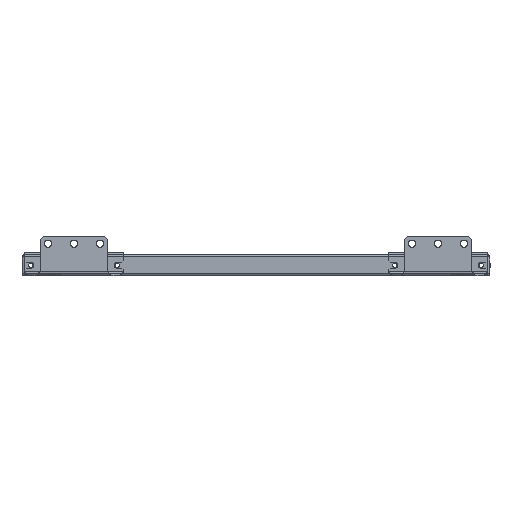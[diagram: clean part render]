
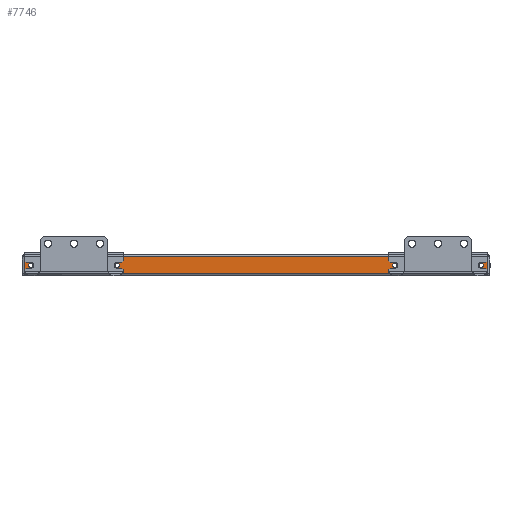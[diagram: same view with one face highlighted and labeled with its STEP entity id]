
A CAD part, left-side view. The second image highlights one B-rep face of the part: STEP entity #7746.
In plain terms, the highlighted planar face has unit normal (-1, 0, 0).
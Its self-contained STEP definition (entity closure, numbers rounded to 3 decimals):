
#45 = EDGE_LOOP ( 'NONE', ( #9570, #9566, #9567, #9565 ) ) ;
#47 = EDGE_LOOP ( 'NONE', ( #9571, #9569 ) ) ;
#48 = EDGE_LOOP ( 'NONE', ( #9574, #9572 ) ) ;
#57 = EDGE_LOOP ( 'NONE', ( #9573, #9568 ) ) ;
#58 = EDGE_LOOP ( 'NONE', ( #9562, #9563 ) ) ;
#404 = VERTEX_POINT ( 'NONE', #1826 ) ;
#405 = VERTEX_POINT ( 'NONE', #1827 ) ;
#412 = VERTEX_POINT ( 'NONE', #1834 ) ;
#413 = VERTEX_POINT ( 'NONE', #1835 ) ;
#420 = VERTEX_POINT ( 'NONE', #1844 ) ;
#421 = VERTEX_POINT ( 'NONE', #1846 ) ;
#428 = VERTEX_POINT ( 'NONE', #1853 ) ;
#429 = VERTEX_POINT ( 'NONE', #1854 ) ;
#610 = VERTEX_POINT ( 'NONE', #2058 ) ;
#611 = VERTEX_POINT ( 'NONE', #2059 ) ;
#612 = VERTEX_POINT ( 'NONE', #2061 ) ;
#613 = VERTEX_POINT ( 'NONE', #2062 ) ;
#1126 = VECTOR ( 'NONE', #3529, 1000. ) ;
#1826 = CARTESIAN_POINT ( 'NONE',  ( -525., -133.5, 8. ) ) ;
#1827 = CARTESIAN_POINT ( 'NONE',  ( -525., -133.5, 12. ) ) ;
#1834 = CARTESIAN_POINT ( 'NONE',  ( -525., -216.5, 8. ) ) ;
#1835 = CARTESIAN_POINT ( 'NONE',  ( -525., -216.5, 12. ) ) ;
#1844 = CARTESIAN_POINT ( 'NONE',  ( -525., 133.5, 8. ) ) ;
#1846 = CARTESIAN_POINT ( 'NONE',  ( -525., 133.5, 12. ) ) ;
#1853 = CARTESIAN_POINT ( 'NONE',  ( -525., 216.5, 8. ) ) ;
#1854 = CARTESIAN_POINT ( 'NONE',  ( -525., 216.5, 12. ) ) ;
#1930 = AXIS2_PLACEMENT_3D ( 'NONE', #3526, #3530, #3531 ) ;
#2058 = CARTESIAN_POINT ( 'NONE',  ( -525., -223., 2. ) ) ;
#2059 = CARTESIAN_POINT ( 'NONE',  ( -525., -223., 18. ) ) ;
#2061 = CARTESIAN_POINT ( 'NONE',  ( -525., 223., 18. ) ) ;
#2062 = CARTESIAN_POINT ( 'NONE',  ( -525., 223., 2. ) ) ;
#2672 = CARTESIAN_POINT ( 'NONE',  ( -525., -216.5, 10. ) ) ;
#2673 = DIRECTION ( 'NONE',  ( 1., 0., 0. ) ) ;
#2674 = DIRECTION ( 'NONE',  ( 0., 0., 1. ) ) ;
#2804 = CARTESIAN_POINT ( 'NONE',  ( -525., 216.5, 10. ) ) ;
#2805 = DIRECTION ( 'NONE',  ( -1., 0., 0. ) ) ;
#2806 = DIRECTION ( 'NONE',  ( 0., 0., 1. ) ) ;
#2807 = CARTESIAN_POINT ( 'NONE',  ( -525., -216.5, 10. ) ) ;
#2808 = DIRECTION ( 'NONE',  ( 1., 0., 0. ) ) ;
#2809 = DIRECTION ( 'NONE',  ( 0., 0., 1. ) ) ;
#2810 = CARTESIAN_POINT ( 'NONE',  ( -525., 133.5, 10. ) ) ;
#2811 = DIRECTION ( 'NONE',  ( -1., 0., 0. ) ) ;
#2812 = DIRECTION ( 'NONE',  ( 0., 0., 1. ) ) ;
#2895 = CARTESIAN_POINT ( 'NONE',  ( -525., -133.5, 10. ) ) ;
#2896 = DIRECTION ( 'NONE',  ( 1., 0., 0. ) ) ;
#2897 = DIRECTION ( 'NONE',  ( 0., 0., 1. ) ) ;
#3066 = LINE ( 'NONE', #3067, #12407 ) ;
#3067 = CARTESIAN_POINT ( 'NONE',  ( -525., 223., 20. ) ) ;
#3068 = DIRECTION ( 'NONE',  ( 0., 0., -1. ) ) ;
#3072 = LINE ( 'NONE', #3073, #12403 ) ;
#3073 = CARTESIAN_POINT ( 'NONE',  ( -525., 225., 18. ) ) ;
#3074 = DIRECTION ( 'NONE',  ( 0., 1., 0. ) ) ;
#3075 = LINE ( 'NONE', #3076, #12400 ) ;
#3076 = CARTESIAN_POINT ( 'NONE',  ( -525., -223., 20. ) ) ;
#3077 = DIRECTION ( 'NONE',  ( 0., 0., 1. ) ) ;
#3224 = CARTESIAN_POINT ( 'NONE',  ( -525., 216.5, 10. ) ) ;
#3231 = DIRECTION ( 'NONE',  ( -1., 0., 0. ) ) ;
#3232 = DIRECTION ( 'NONE',  ( 0., 0., 1. ) ) ;
#3248 = CARTESIAN_POINT ( 'NONE',  ( -525., 133.5, 10. ) ) ;
#3252 = DIRECTION ( 'NONE',  ( -1., 0., 0. ) ) ;
#3253 = DIRECTION ( 'NONE',  ( 0., 0., 1. ) ) ;
#3385 = PLANE ( 'NONE',  #12116 ) ;
#3386 = CARTESIAN_POINT ( 'NONE',  ( -525., -225., 20. ) ) ;
#3387 = DIRECTION ( 'NONE',  ( 1., 0., 0. ) ) ;
#3388 = DIRECTION ( 'NONE',  ( 0., 0., -1. ) ) ;
#3526 = CARTESIAN_POINT ( 'NONE',  ( -525., -133.5, 10. ) ) ;
#3527 = LINE ( 'NONE', #3528, #1126 ) ;
#3528 = CARTESIAN_POINT ( 'NONE',  ( -525., -225., 2. ) ) ;
#3529 = DIRECTION ( 'NONE',  ( 0., -1., 0. ) ) ;
#3530 = DIRECTION ( 'NONE',  ( 1., 0., 0. ) ) ;
#3531 = DIRECTION ( 'NONE',  ( 0., 0., 1. ) ) ;
#7362 = CIRCLE ( 'NONE', #12574, 2. ) ;
#7386 = CIRCLE ( 'NONE', #12581, 2. ) ;
#7390 = CIRCLE ( 'NONE', #12573, 2. ) ;
#7391 = CIRCLE ( 'NONE', #12691, 2. ) ;
#7526 = EDGE_CURVE ( 'NONE', #413, #412, #7391, .T. ) ;
#7570 = EDGE_CURVE ( 'NONE', #429, #428, #7362, .T. ) ;
#7571 = EDGE_CURVE ( 'NONE', #412, #413, #7390, .T. ) ;
#7572 = EDGE_CURVE ( 'NONE', #421, #420, #7386, .T. ) ;
#7587 = EDGE_CURVE ( 'NONE', #405, #404, #10244, .T. ) ;
#7643 = EDGE_CURVE ( 'NONE', #612, #613, #3066, .T. ) ;
#7645 = EDGE_CURVE ( 'NONE', #611, #612, #3072, .T. ) ;
#7646 = EDGE_CURVE ( 'NONE', #610, #611, #3075, .T. ) ;
#7698 = EDGE_CURVE ( 'NONE', #428, #429, #10208, .T. ) ;
#7705 = EDGE_CURVE ( 'NONE', #420, #421, #10204, .T. ) ;
#7746 = ADVANCED_FACE ( 'NONE', ( #12120, #12117, #12113, #12111, #12108 ), #3385, .F. ) ;
#7792 = EDGE_CURVE ( 'NONE', #613, #610, #3527, .T. ) ;
#7793 = EDGE_CURVE ( 'NONE', #404, #405, #10193, .T. ) ;
#9562 = ORIENTED_EDGE ( 'NONE', *, *, #7587, .T. ) ;
#9563 = ORIENTED_EDGE ( 'NONE', *, *, #7793, .T. ) ;
#9565 = ORIENTED_EDGE ( 'NONE', *, *, #7792, .T. ) ;
#9566 = ORIENTED_EDGE ( 'NONE', *, *, #7645, .T. ) ;
#9567 = ORIENTED_EDGE ( 'NONE', *, *, #7643, .T. ) ;
#9568 = ORIENTED_EDGE ( 'NONE', *, *, #7698, .F. ) ;
#9569 = ORIENTED_EDGE ( 'NONE', *, *, #7705, .F. ) ;
#9570 = ORIENTED_EDGE ( 'NONE', *, *, #7646, .T. ) ;
#9571 = ORIENTED_EDGE ( 'NONE', *, *, #7572, .F. ) ;
#9572 = ORIENTED_EDGE ( 'NONE', *, *, #7571, .T. ) ;
#9573 = ORIENTED_EDGE ( 'NONE', *, *, #7570, .F. ) ;
#9574 = ORIENTED_EDGE ( 'NONE', *, *, #7526, .T. ) ;
#10193 = CIRCLE ( 'NONE', #1930, 2. ) ;
#10204 = CIRCLE ( 'NONE', #12322, 2. ) ;
#10208 = CIRCLE ( 'NONE', #12333, 2. ) ;
#10244 = CIRCLE ( 'NONE', #12558, 2. ) ;
#12108 = FACE_BOUND ( 'NONE', #58, .T. ) ;
#12111 = FACE_OUTER_BOUND ( 'NONE', #45, .T. ) ;
#12113 = FACE_BOUND ( 'NONE', #57, .T. ) ;
#12116 = AXIS2_PLACEMENT_3D ( 'NONE', #3386, #3387, #3388 ) ;
#12117 = FACE_BOUND ( 'NONE', #47, .T. ) ;
#12120 = FACE_BOUND ( 'NONE', #48, .T. ) ;
#12322 = AXIS2_PLACEMENT_3D ( 'NONE', #3248, #3252, #3253 ) ;
#12333 = AXIS2_PLACEMENT_3D ( 'NONE', #3224, #3231, #3232 ) ;
#12400 = VECTOR ( 'NONE', #3077, 1000. ) ;
#12403 = VECTOR ( 'NONE', #3074, 1000. ) ;
#12407 = VECTOR ( 'NONE', #3068, 1000. ) ;
#12558 = AXIS2_PLACEMENT_3D ( 'NONE', #2895, #2896, #2897 ) ;
#12573 = AXIS2_PLACEMENT_3D ( 'NONE', #2807, #2808, #2809 ) ;
#12574 = AXIS2_PLACEMENT_3D ( 'NONE', #2804, #2805, #2806 ) ;
#12581 = AXIS2_PLACEMENT_3D ( 'NONE', #2810, #2811, #2812 ) ;
#12691 = AXIS2_PLACEMENT_3D ( 'NONE', #2672, #2673, #2674 ) ;
